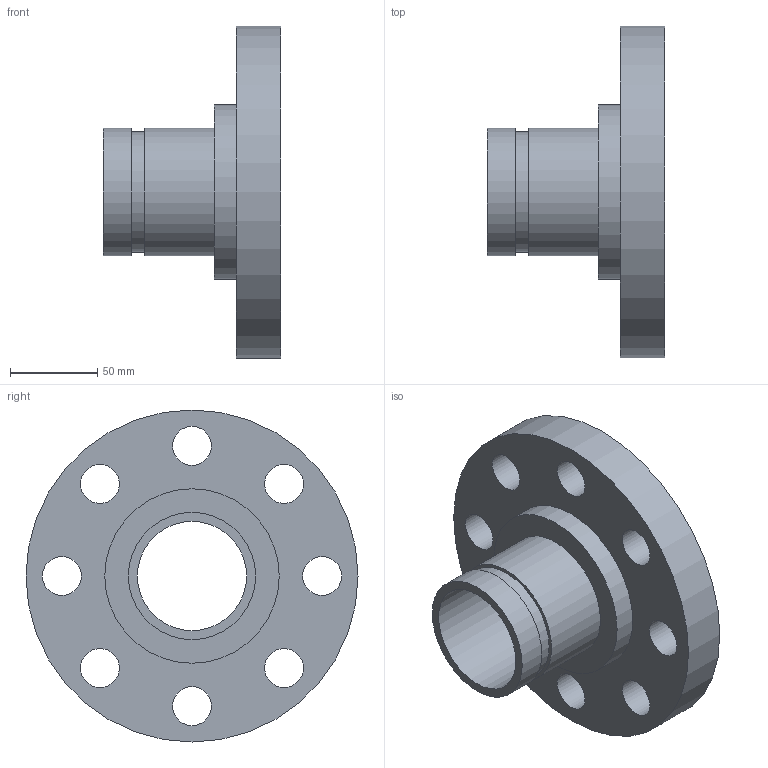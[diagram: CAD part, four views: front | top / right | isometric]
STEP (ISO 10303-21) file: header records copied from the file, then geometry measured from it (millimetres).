
FILE_DESCRIPTION(/* description */ ('VIC FLANGE ADAPTER No 46F','CAx-IF Rec.Pracs.---Representation and Presentation of Product Manufacturing Information (PMI)---4.0---2014-10-13'),/* implementation_level */ '2;1');
FILE_NAME(/* name */ 'C:\Users\kkamble\AppData\Roaming\Autodesk\ApplicationPlugins\Back Up\Victaulic_IPS_Flanged Adapter Nipple_CL 300 FF_No 46F (OGSxFLG)\Victaulic_IPS_Flanged Adapter Nipple_CL 300 FF_No 46F (OGSxFLG)_2.5 (65).stp',/* time_stamp */ '2020-07-26T22:24:44+06:00',/* author */ ('CONSTRUCTION PIPING SERVICES'),/* organization */ ('Victaulic'),/* preprocessor_version */ 'ST-DEVELOPER v17.2',/* originating_system */ 'Autodesk Inventor 2019',/* authorisation */ '');
FILE_SCHEMA (('AP242_MANAGED_MODEL_BASED_3D_ENGINEERING_MIM_LF { 1 0 10303 442 1 1 4 }'));
Length unit declared in the file: inch
Products named in the file (1): 046F-02.5
Bounding box: 101.6 x 190.5 x 190.5 mm (x, y, z)
Volume: 692752.5 mm3; surface area: 113376.8 mm2
Topology: 1 solids, 1 shells, 20 faces, 54 edges, 40 vertices
Faces by surface type: cylinder 14, plane 6
Full cylindrical faces by diameter (mm): 22.352 x8, 62.713 x1, 69.088 x1, 73.025 x2, 100.076 x1, 190.5 x1
Entity records: 782 total; most frequent: DIRECTION 136, CARTESIAN_POINT 115, ORIENTED_EDGE 108, AXIS2_PLACEMENT_3D 61, EDGE_CURVE 54, EDGE_LOOP 42, CIRCLE 40, VERTEX_POINT 40
